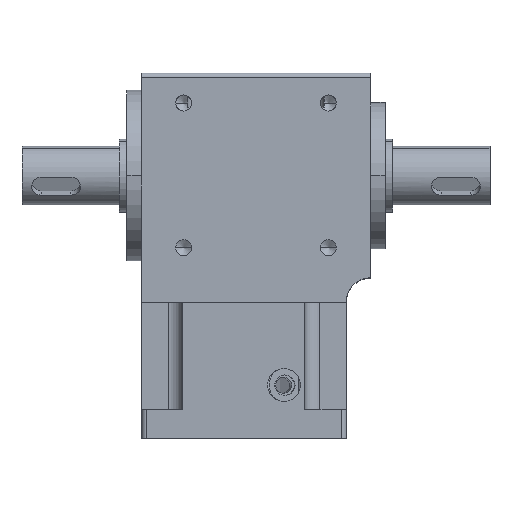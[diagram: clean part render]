
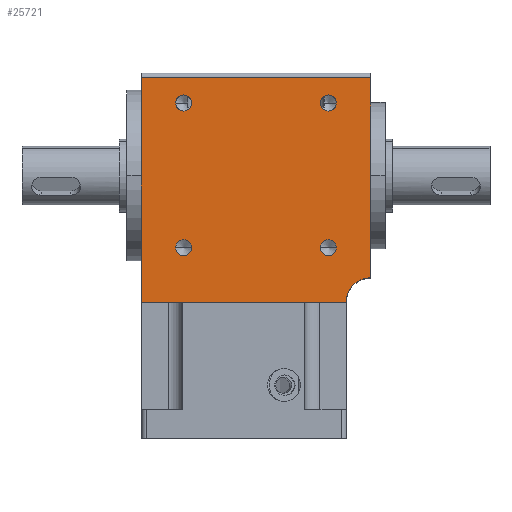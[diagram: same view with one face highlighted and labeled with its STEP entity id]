
A CAD part, top view. The second image highlights one B-rep face of the part: STEP entity #25721.
In plain terms, the highlighted planar face has unit normal (0, 0, 1).
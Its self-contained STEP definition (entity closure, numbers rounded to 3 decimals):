
#165 = CARTESIAN_POINT ( 'NONE',  ( 41.349, -12.349, 21. ) ) ;
#437 = CARTESIAN_POINT ( 'NONE',  ( 39.699, -12.349, 21. ) ) ;
#1367 = VERTEX_POINT ( 'NONE', #20692 ) ;
#1480 = DIRECTION ( 'NONE',  ( 0., 0., 1. ) ) ;
#1532 = ORIENTED_EDGE ( 'NONE', *, *, #19030, .F. ) ;
#1935 = DIRECTION ( 'NONE',  ( 0., 0., 1. ) ) ;
#2026 = CIRCLE ( 'NONE', #21938, 1.65 ) ;
#2052 = AXIS2_PLACEMENT_3D ( 'NONE', #10039, #30177, #12758 ) ;
#2240 = VERTEX_POINT ( 'NONE', #15989 ) ;
#2735 = VECTOR ( 'NONE', #6662, 1000. ) ;
#2789 = DIRECTION ( 'NONE',  ( 1., 0., 0. ) ) ;
#3463 = CARTESIAN_POINT ( 'NONE',  ( 10.001, -12.349, 21. ) ) ;
#3568 = CARTESIAN_POINT ( 'NONE',  ( 42.999, 17.349, 21. ) ) ;
#3674 = VERTEX_POINT ( 'NONE', #29586 ) ;
#3750 = CARTESIAN_POINT ( 'NONE',  ( 41.349, -12.349, 21. ) ) ;
#5969 = FACE_OUTER_BOUND ( 'NONE', #22902, .T. ) ;
#6037 = CARTESIAN_POINT ( 'NONE',  ( 3., 22.5, 21. ) ) ;
#6354 = VERTEX_POINT ( 'NONE', #25651 ) ;
#6662 = DIRECTION ( 'NONE',  ( 0., 1., 0. ) ) ;
#6697 = LINE ( 'NONE', #20422, #32153 ) ;
#7016 = LINE ( 'NONE', #16585, #2735 ) ;
#7030 = EDGE_LOOP ( 'NONE', ( #1532, #32371 ) ) ;
#7246 = DIRECTION ( 'NONE',  ( 0., 0., -1. ) ) ;
#7356 = ORIENTED_EDGE ( 'NONE', *, *, #16264, .F. ) ;
#7741 = EDGE_CURVE ( 'NONE', #6354, #9438, #2026, .T. ) ;
#7837 = EDGE_LOOP ( 'NONE', ( #30027, #27024 ) ) ;
#8460 = CIRCLE ( 'NONE', #28527, 1.65 ) ;
#8531 = DIRECTION ( 'NONE',  ( 0., 0., 1. ) ) ;
#8547 = CARTESIAN_POINT ( 'NONE',  ( 10.001, 17.349, 21. ) ) ;
#8853 = CIRCLE ( 'NONE', #24124, 1.65 ) ;
#8897 = CARTESIAN_POINT ( 'NONE',  ( 41.349, 17.349, 21. ) ) ;
#9438 = VERTEX_POINT ( 'NONE', #437 ) ;
#9935 = VERTEX_POINT ( 'NONE', #3568 ) ;
#10039 = CARTESIAN_POINT ( 'NONE',  ( 11.651, 17.349, 21. ) ) ;
#10164 = DIRECTION ( 'NONE',  ( 0., -1., 0. ) ) ;
#10174 = DIRECTION ( 'NONE',  ( 0., 0., 1. ) ) ;
#10291 = CIRCLE ( 'NONE', #19503, 1.65 ) ;
#10400 = EDGE_CURVE ( 'NONE', #9438, #6354, #29762, .T. ) ;
#10475 = DIRECTION ( 'NONE',  ( 0., 0., 1. ) ) ;
#10883 = VERTEX_POINT ( 'NONE', #3463 ) ;
#10950 = CARTESIAN_POINT ( 'NONE',  ( 50., -18.5, 21. ) ) ;
#12191 = EDGE_CURVE ( 'NONE', #24685, #9935, #10291, .T. ) ;
#12307 = DIRECTION ( 'NONE',  ( -1., 0., 0. ) ) ;
#12693 = ORIENTED_EDGE ( 'NONE', *, *, #10400, .F. ) ;
#12703 = DIRECTION ( 'NONE',  ( 0., 0., 1. ) ) ;
#12758 = DIRECTION ( 'NONE',  ( 1., 0., 0. ) ) ;
#14945 = EDGE_CURVE ( 'NONE', #26369, #2240, #6697, .T. ) ;
#15230 = ORIENTED_EDGE ( 'NONE', *, *, #19480, .F. ) ;
#15440 = EDGE_LOOP ( 'NONE', ( #22569, #15230 ) ) ;
#15498 = CARTESIAN_POINT ( 'NONE',  ( 11.651, 17.349, 21. ) ) ;
#15821 = AXIS2_PLACEMENT_3D ( 'NONE', #15498, #10475, #18274 ) ;
#15989 = CARTESIAN_POINT ( 'NONE',  ( 45., -23.5, 21. ) ) ;
#16264 = EDGE_CURVE ( 'NONE', #28886, #24583, #16396, .T. ) ;
#16396 = LINE ( 'NONE', #27843, #25461 ) ;
#16445 = CARTESIAN_POINT ( 'NONE',  ( 39.699, 17.349, 21. ) ) ;
#16509 = ORIENTED_EDGE ( 'NONE', *, *, #18314, .F. ) ;
#16585 = CARTESIAN_POINT ( 'NONE',  ( 3., 0., 21. ) ) ;
#16683 = CIRCLE ( 'NONE', #2052, 1.65 ) ;
#16916 = AXIS2_PLACEMENT_3D ( 'NONE', #24275, #1935, #26780 ) ;
#17918 = DIRECTION ( 'NONE',  ( 0., 0., -1. ) ) ;
#18274 = DIRECTION ( 'NONE',  ( 1., 0., 0. ) ) ;
#18314 = EDGE_CURVE ( 'NONE', #24583, #21971, #20672, .T. ) ;
#18550 = AXIS2_PLACEMENT_3D ( 'NONE', #21931, #7246, #24786 ) ;
#18670 = EDGE_CURVE ( 'NONE', #3674, #28484, #16683, .T. ) ;
#18716 = EDGE_LOOP ( 'NONE', ( #21373, #12693 ) ) ;
#18882 = ORIENTED_EDGE ( 'NONE', *, *, #14945, .T. ) ;
#19030 = EDGE_CURVE ( 'NONE', #9935, #24685, #8460, .T. ) ;
#19310 = FACE_BOUND ( 'NONE', #7030, .T. ) ;
#19480 = EDGE_CURVE ( 'NONE', #10883, #1367, #8853, .T. ) ;
#19503 = AXIS2_PLACEMENT_3D ( 'NONE', #8897, #1480, #26326 ) ;
#20276 = CARTESIAN_POINT ( 'NONE',  ( 11.651, -12.349, 21. ) ) ;
#20422 = CARTESIAN_POINT ( 'NONE',  ( 53., -23.5, 21. ) ) ;
#20672 = LINE ( 'NONE', #22562, #32024 ) ;
#20692 = CARTESIAN_POINT ( 'NONE',  ( 13.301, -12.349, 21. ) ) ;
#20722 = DIRECTION ( 'NONE',  ( 1., 0., 0. ) ) ;
#21231 = CARTESIAN_POINT ( 'NONE',  ( 3., -23.5, 21. ) ) ;
#21271 = DIRECTION ( 'NONE',  ( 1., 0., 0. ) ) ;
#21373 = ORIENTED_EDGE ( 'NONE', *, *, #7741, .F. ) ;
#21665 = FACE_BOUND ( 'NONE', #15440, .T. ) ;
#21931 = CARTESIAN_POINT ( 'NONE',  ( 50., -23.5, 21. ) ) ;
#21938 = AXIS2_PLACEMENT_3D ( 'NONE', #165, #12703, #2789 ) ;
#21971 = VERTEX_POINT ( 'NONE', #10950 ) ;
#22426 = CIRCLE ( 'NONE', #16916, 1.65 ) ;
#22464 = ORIENTED_EDGE ( 'NONE', *, *, #23509, .T. ) ;
#22510 = CARTESIAN_POINT ( 'NONE',  ( 41.349, 17.349, 21. ) ) ;
#22562 = CARTESIAN_POINT ( 'NONE',  ( 50., 0., 21. ) ) ;
#22569 = ORIENTED_EDGE ( 'NONE', *, *, #28155, .F. ) ;
#22902 = EDGE_LOOP ( 'NONE', ( #7356, #23414, #18882, #22464, #16509 ) ) ;
#23227 = AXIS2_PLACEMENT_3D ( 'NONE', #3750, #8531, #21271 ) ;
#23414 = ORIENTED_EDGE ( 'NONE', *, *, #31217, .F. ) ;
#23509 = EDGE_CURVE ( 'NONE', #2240, #21971, #30341, .T. ) ;
#24124 = AXIS2_PLACEMENT_3D ( 'NONE', #20276, #10174, #27720 ) ;
#24275 = CARTESIAN_POINT ( 'NONE',  ( 11.651, -12.349, 21. ) ) ;
#24583 = VERTEX_POINT ( 'NONE', #30822 ) ;
#24685 = VERTEX_POINT ( 'NONE', #16445 ) ;
#24786 = DIRECTION ( 'NONE',  ( 1., 0., 0. ) ) ;
#24833 = CARTESIAN_POINT ( 'NONE',  ( 53., -23.5, 21. ) ) ;
#25350 = EDGE_CURVE ( 'NONE', #28484, #3674, #28340, .T. ) ;
#25461 = VECTOR ( 'NONE', #20722, 1000. ) ;
#25651 = CARTESIAN_POINT ( 'NONE',  ( 42.999, -12.349, 21. ) ) ;
#25721 = ADVANCED_FACE ( 'NONE', ( #5969, #31028, #21665, #31442, #19310 ), #27997, .F. ) ;
#26326 = DIRECTION ( 'NONE',  ( 1., 0., 0. ) ) ;
#26369 = VERTEX_POINT ( 'NONE', #21231 ) ;
#26780 = DIRECTION ( 'NONE',  ( 1., 0., 0. ) ) ;
#27024 = ORIENTED_EDGE ( 'NONE', *, *, #25350, .F. ) ;
#27656 = DIRECTION ( 'NONE',  ( 1., 0., 0. ) ) ;
#27720 = DIRECTION ( 'NONE',  ( 1., 0., 0. ) ) ;
#27843 = CARTESIAN_POINT ( 'NONE',  ( 53., 22.5, 21. ) ) ;
#27997 = PLANE ( 'NONE',  #31372 ) ;
#28155 = EDGE_CURVE ( 'NONE', #1367, #10883, #22426, .T. ) ;
#28340 = CIRCLE ( 'NONE', #15821, 1.65 ) ;
#28484 = VERTEX_POINT ( 'NONE', #8547 ) ;
#28527 = AXIS2_PLACEMENT_3D ( 'NONE', #22510, #29928, #29820 ) ;
#28886 = VERTEX_POINT ( 'NONE', #6037 ) ;
#29586 = CARTESIAN_POINT ( 'NONE',  ( 13.301, 17.349, 21. ) ) ;
#29762 = CIRCLE ( 'NONE', #23227, 1.65 ) ;
#29820 = DIRECTION ( 'NONE',  ( 1., 0., 0. ) ) ;
#29928 = DIRECTION ( 'NONE',  ( 0., 0., 1. ) ) ;
#30027 = ORIENTED_EDGE ( 'NONE', *, *, #18670, .F. ) ;
#30177 = DIRECTION ( 'NONE',  ( 0., 0., 1. ) ) ;
#30341 = CIRCLE ( 'NONE', #18550, 5. ) ;
#30822 = CARTESIAN_POINT ( 'NONE',  ( 50., 22.5, 21. ) ) ;
#31028 = FACE_BOUND ( 'NONE', #7837, .T. ) ;
#31217 = EDGE_CURVE ( 'NONE', #26369, #28886, #7016, .T. ) ;
#31372 = AXIS2_PLACEMENT_3D ( 'NONE', #24833, #17918, #12307 ) ;
#31442 = FACE_BOUND ( 'NONE', #18716, .T. ) ;
#32024 = VECTOR ( 'NONE', #10164, 1000. ) ;
#32153 = VECTOR ( 'NONE', #27656, 1000. ) ;
#32371 = ORIENTED_EDGE ( 'NONE', *, *, #12191, .F. ) ;
